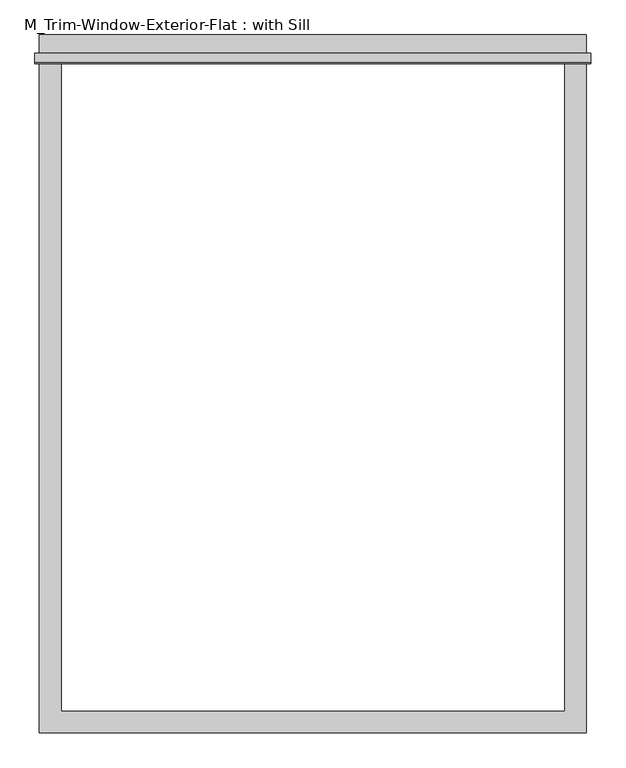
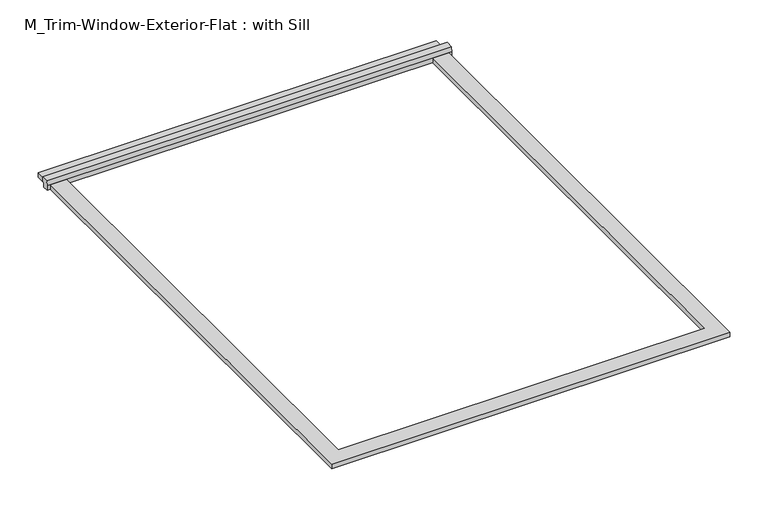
"""IFC4 building model written with IfcOpenShell, lengths in millimetres: proxy geometry, M_Trim-Window-Exterior-Flat : with Sill."""

from ifc_helpers import new_model, si_unit, frame, origin, origin_with_axes, place, context, project, spatial, polyline, outline, extrude, source, transform, mapped, element, save


def m_trim_window_exterior_flat_with_sill_88aaac3a(model_context):
    return source(origin(), model_context, "Body", "SweptSolid", [
        extrude(outline(polyline([(760.0, 1820.4323709), (-760.0, 1820.4323709), (-760.0, 1880.4323709), (760.0, 1880.4323709), (760.0, 1820.4323709)])), origin_with_axes(), (0.0, 0.0, 1.0), 19.05),
        extrude(outline(polyline([(1830.0, 38.1), (1830.0, 19.05), (1820.4323709, 19.05), (1820.4323709, 0.0), (1800.0, 0.0), (1800.0, 19.05), (1802.4580645, 38.1), (1830.0, 38.1)])), frame((-772.7, 0.0, 0.0), z_axis=(1.0, 0.0, 0.0), x_axis=(0.0, 1.0, 0.0)), (0.0, 0.0, 1.0), 1545.4),
        extrude(outline(polyline([(-760.0, -60.0), (-760.0, 1800.0), (-700.0, 1800.0), (-700.0, 0.0), (700.0, 0.0), (700.0, 1800.0), (760.0, 1800.0), (760.0, -60.0), (-760.0, -60.0)])), origin_with_axes(), (0.0, 0.0, 1.0), 19.05),
    ])


if __name__ == "__main__":
    model = new_model("IFC4")
    model_context = context("Model", 3, world=origin())
    ifc_project = project(units=[si_unit("LENGTHUNIT", "METRE", prefix="MILLI")], contexts=[model_context])
    site = spatial("IfcSite", under=ifc_project)
    building = spatial("IfcBuilding", under=site)
    placement = place(None, origin())
    m_trim_window_exterior_flat_with_sill_shape = m_trim_window_exterior_flat_with_sill_88aaac3a(model_context)
    element("IfcBuildingElementProxy", 1, Name="M_Trim-Window-Exterior-Flat : with Sill", ObjectType="M_Trim-Window-Exterior-Flat : with Sill", at=placement, inside=building, context=model_context, shape_type="MappedRepresentation", body=[
        mapped(m_trim_window_exterior_flat_with_sill_shape, transform((0.0, 0.0, 0.0), x_axis=(1.0, 0.0, 0.0), y_axis=(0.0, 1.0, 0.0), z_axis=(0.0, 0.0, 1.0))),
    ])
    save(model, "model.ifc")
